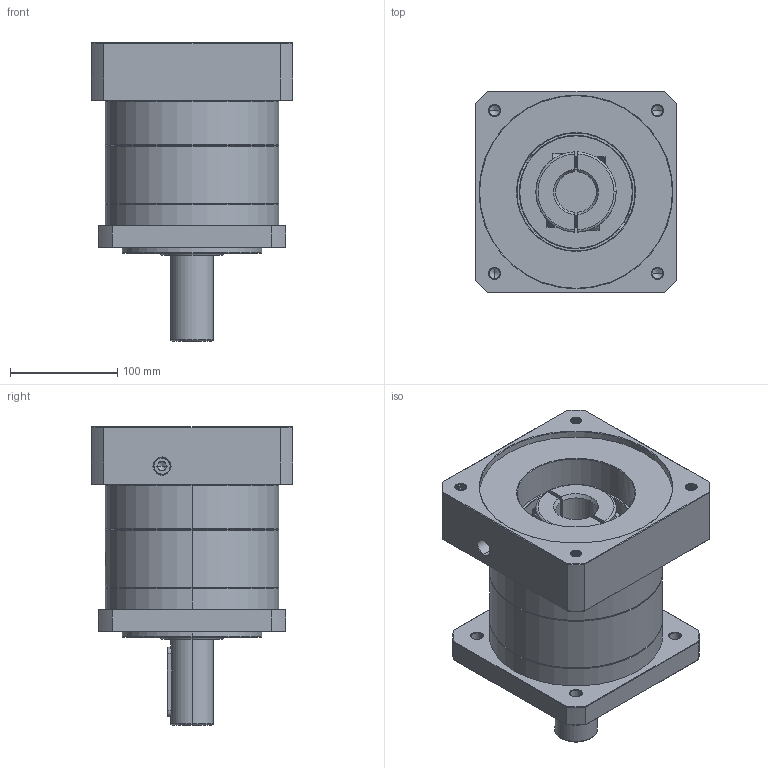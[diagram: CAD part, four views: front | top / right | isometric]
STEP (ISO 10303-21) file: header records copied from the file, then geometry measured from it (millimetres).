
FILE_DESCRIPTION (( 'STEP AP214' ), '1' );
FILE_NAME ('ZF160A-D40-L1-P2-38-180-215-M12.step', '2023-09-03T06:58:17', ( '' ), ( '' ), 'SwSTEP 2.0', 'SolidWorks 2016', '' );
FILE_SCHEMA (( 'AUTOMOTIVE_DESIGN' ));
Length unit declared in the file: millimetre
Products named in the file (1): ZF160A-D40-L1-P2-38-180-215-M12
Bounding box: 188 x 188 x 278.2 mm (x, y, z)
Volume: 4477146.6 mm3; surface area: 355650.9 mm2
Topology: 6 solids, 6 shells, 2187 faces, 5918 edges, 3836 vertices
Faces by surface type: plane 1017, cylinder 411, bspline 411, cone 326, torus 22
Entity records: 125734 total; most frequent: CARTESIAN_POINT 51732, ORIENTED_EDGE 11776, DIRECTION 8615, EDGE_CURVE 5888, VERTEX_POINT 3836, LINE 3053, VECTOR 3053, AXIS2_PLACEMENT_3D 2781
